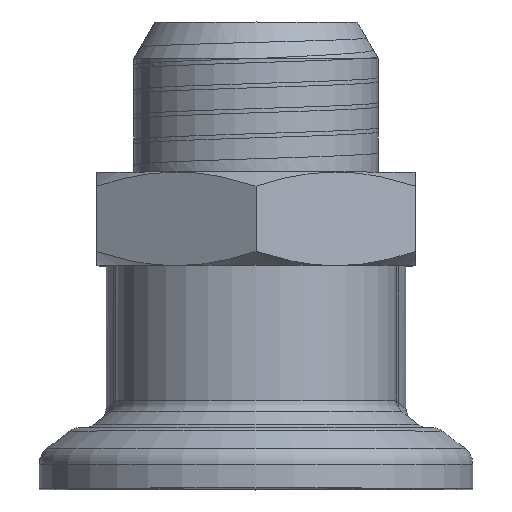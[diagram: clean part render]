
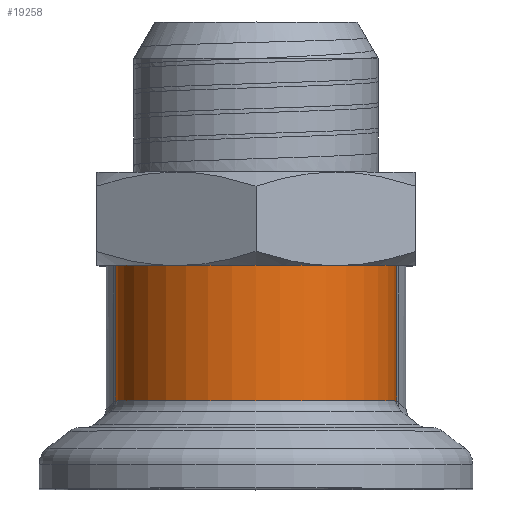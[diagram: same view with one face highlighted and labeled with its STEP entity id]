
A CAD part, top view. The second image highlights one B-rep face of the part: STEP entity #19258.
In plain terms, the highlighted cylindrical face has radius 7.495 mm (diameter 14.991 mm), a partial arc.
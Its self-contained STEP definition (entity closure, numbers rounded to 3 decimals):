
#310 = DIRECTION ( 'NONE',  ( 0., 0., -1. ) ) ;
#781 = VECTOR ( 'NONE', #18548, 1000. ) ;
#845 = CARTESIAN_POINT ( 'NONE',  ( 7.495, -0.143, 19.728 ) ) ;
#1333 = VERTEX_POINT ( 'NONE', #22438 ) ;
#2547 = DIRECTION ( 'NONE',  ( 0., 0., -1. ) ) ;
#2707 = DIRECTION ( 'NONE',  ( 1., 0., 0. ) ) ;
#3761 = VERTEX_POINT ( 'NONE', #23451 ) ;
#4001 = ORIENTED_EDGE ( 'NONE', *, *, #5193, .T. ) ;
#4079 = AXIS2_PLACEMENT_3D ( 'NONE', #13920, #17662, #2547 ) ;
#4110 = VERTEX_POINT ( 'NONE', #17366 ) ;
#4415 = DIRECTION ( 'NONE',  ( 0., -1., 0. ) ) ;
#4610 = VECTOR ( 'NONE', #4415, 1000. ) ;
#5193 = EDGE_CURVE ( 'NONE', #3761, #4110, #16056, .T. ) ;
#7263 = CYLINDRICAL_SURFACE ( 'NONE', #17258, 7.495 ) ;
#8035 = CIRCLE ( 'NONE', #13024, 7.495 ) ;
#9072 = EDGE_CURVE ( 'NONE', #1333, #4110, #13763, .T. ) ;
#13024 = AXIS2_PLACEMENT_3D ( 'NONE', #22762, #17208, #2707 ) ;
#13479 = CARTESIAN_POINT ( 'NONE',  ( 0., -0.143, 19.728 ) ) ;
#13763 = LINE ( 'NONE', #845, #781 ) ;
#13920 = CARTESIAN_POINT ( 'NONE',  ( 0., -7.38, 19.728 ) ) ;
#14093 = ORIENTED_EDGE ( 'NONE', *, *, #14842, .T. ) ;
#14372 = EDGE_LOOP ( 'NONE', ( #17131, #4001, #15926, #14093 ) ) ;
#14842 = EDGE_CURVE ( 'NONE', #1333, #22643, #8035, .T. ) ;
#15298 = LINE ( 'NONE', #19161, #4610 ) ;
#15926 = ORIENTED_EDGE ( 'NONE', *, *, #9072, .F. ) ;
#16056 = CIRCLE ( 'NONE', #4079, 7.495 ) ;
#16206 = EDGE_CURVE ( 'NONE', #22643, #3761, #15298, .T. ) ;
#17131 = ORIENTED_EDGE ( 'NONE', *, *, #16206, .T. ) ;
#17208 = DIRECTION ( 'NONE',  ( 0., -1., 0. ) ) ;
#17258 = AXIS2_PLACEMENT_3D ( 'NONE', #13479, #18698, #310 ) ;
#17366 = CARTESIAN_POINT ( 'NONE',  ( 7.495, -7.38, 19.728 ) ) ;
#17662 = DIRECTION ( 'NONE',  ( 0., 1., 0. ) ) ;
#18548 = DIRECTION ( 'NONE',  ( 0., -1., 0. ) ) ;
#18698 = DIRECTION ( 'NONE',  ( 0., -1., 0. ) ) ;
#19161 = CARTESIAN_POINT ( 'NONE',  ( -7.495, -0.143, 19.728 ) ) ;
#19258 = ADVANCED_FACE ( 'NONE', ( #23785 ), #7263, .T. ) ;
#20979 = CARTESIAN_POINT ( 'NONE',  ( -7.495, -0.143, 19.728 ) ) ;
#22438 = CARTESIAN_POINT ( 'NONE',  ( 7.495, -0.143, 19.728 ) ) ;
#22643 = VERTEX_POINT ( 'NONE', #20979 ) ;
#22762 = CARTESIAN_POINT ( 'NONE',  ( 0., -0.143, 19.728 ) ) ;
#23451 = CARTESIAN_POINT ( 'NONE',  ( -7.495, -7.38, 19.728 ) ) ;
#23785 = FACE_OUTER_BOUND ( 'NONE', #14372, .T. ) ;
